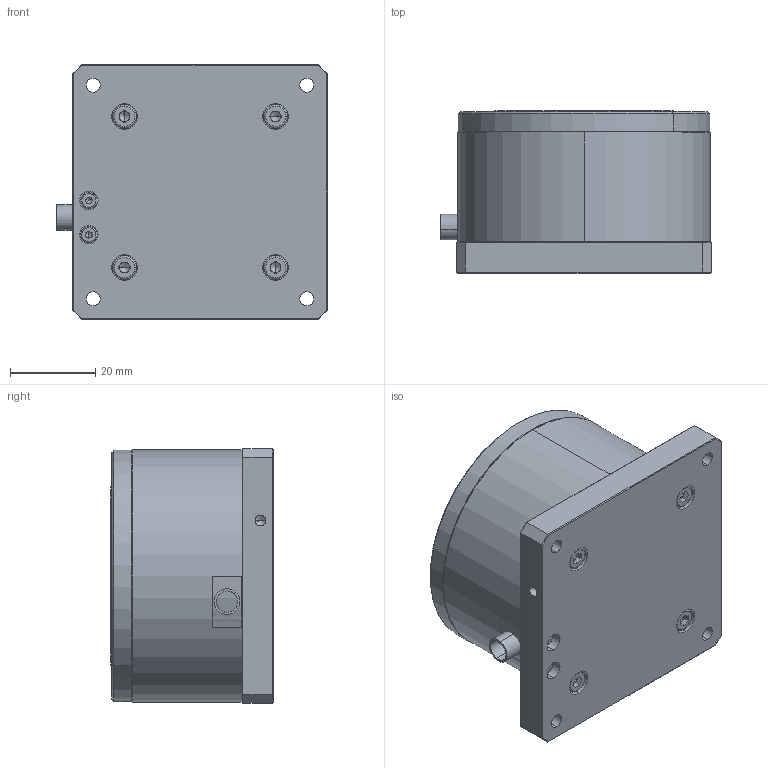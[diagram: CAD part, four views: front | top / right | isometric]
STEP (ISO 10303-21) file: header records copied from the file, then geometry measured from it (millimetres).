
FILE_DESCRIPTION (( 'STEP AP203' ), '1' );
FILE_NAME ('P34.T1S-B2-22.01.18.STEP', '2022-01-18T01:28:36', ( '' ), ( '' ), 'SwSTEP 2.0', 'SolidWorks 2016', '' );
FILE_SCHEMA (( 'CONFIG_CONTROL_DESIGN' ));
Length unit declared in the file: millimetre
Products named in the file (1): P34.T1S-B2-22.01.18
Bounding box: 63.25 x 38 x 59.5 mm (x, y, z)
Volume: 108672.6 mm3; surface area: 29008.8 mm2
Topology: 15 solids, 15 shells, 418 faces, 948 edges, 569 vertices
Faces by surface type: plane 206, cylinder 133, cone 59, torus 20
Entity records: 11626 total; most frequent: DIRECTION 2157, CARTESIAN_POINT 1968, ORIENTED_EDGE 1828, EDGE_CURVE 914, AXIS2_PLACEMENT_3D 828, VERTEX_POINT 569, EDGE_LOOP 501, VECTOR 501
